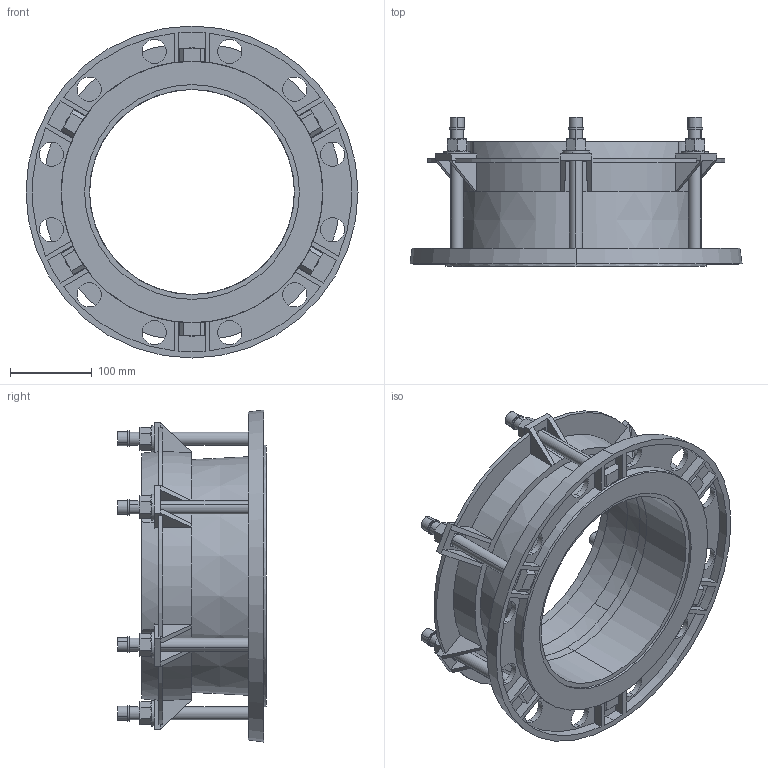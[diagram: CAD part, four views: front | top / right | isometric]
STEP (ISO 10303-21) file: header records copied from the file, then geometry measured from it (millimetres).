
FILE_DESCRIPTION (( 'STEP AP203' ), '1' );
FILE_NAME ('O_623_10_DN250-250mm_X1XXXXX_REV01.step', '2020-04-17T09:08:33', ( '' ), ( '' ), 'SwSTEP 2.0', 'SolidWorks 2019', '' );
FILE_SCHEMA (( 'CONFIG_CONTROL_DESIGN' ));
Length unit declared in the file: millimetre
Products named in the file (1): O_623_10_DN250-250mm_X1XXXXX_REV01
Bounding box: 405 x 181.5 x 405 mm (x, y, z)
Volume: 3976214.6 mm3; surface area: 613737.4 mm2
Topology: 1 solids, 1 shells, 647 faces, 1648 edges, 1030 vertices
Faces by surface type: plane 328, cylinder 205, cone 114
Entity records: 20307 total; most frequent: CARTESIAN_POINT 4502, ORIENTED_EDGE 3296, DIRECTION 3280, EDGE_CURVE 1648, AXIS2_PLACEMENT_3D 1224, VERTEX_POINT 1030, LINE 832, VECTOR 832
